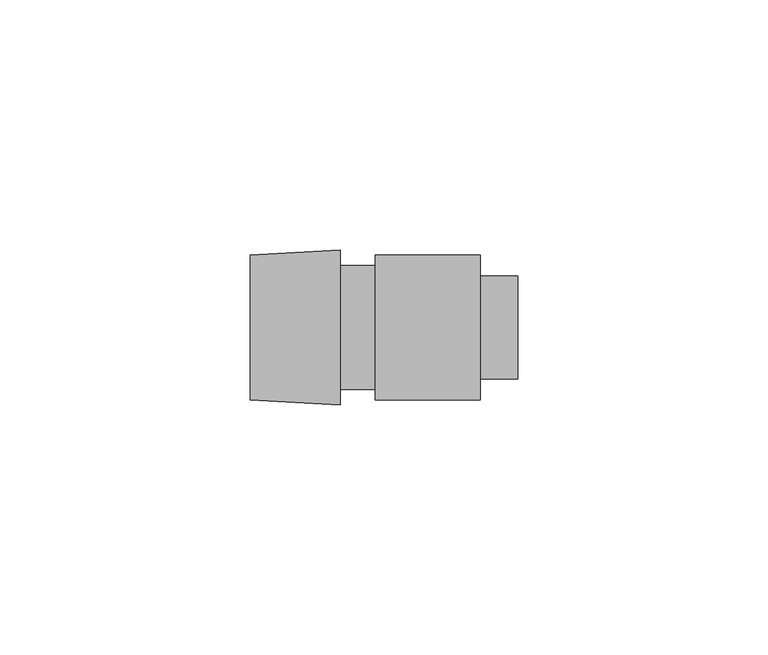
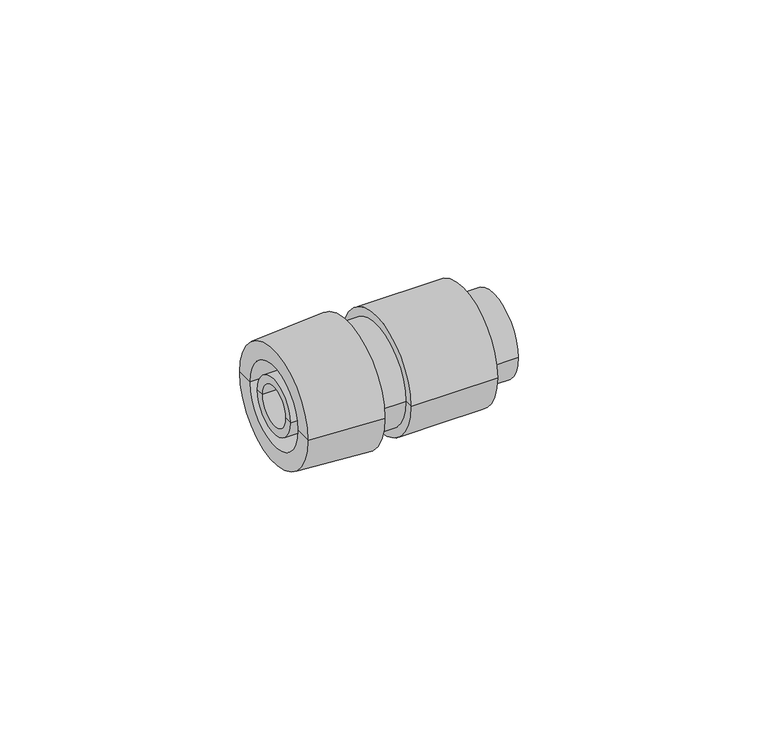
"""IFC4 building model written with IfcOpenShell, lengths in millimetres: cable carrier fitting geometry, КНС_ПереходникАрмированнаяТрубаКоробка_IP65_DKC : Коробка."""

from ifc_helpers import new_model, si_unit, frame, origin, place, context, project, spatial, polyline, circle_curve, source, transform, mapped, element, save
from ifc_brep_helpers import plane_surface, cylinder_surface, revolved_surface, advanced_brep


def cable_carrier_fitting_572a19a3(model_context):
    return source(origin(), model_context, "Body", "AdvancedBrep", [
        advanced_brep(
        [(35.5, -8.1853846, 0.0), (35.5, 8.1853846, 0.0), (0.0, 8.1853846, 0.0), (0.0, -8.1853846, 0.0), (35.5, -10.25, 0.0), (35.5, 10.25, 0.0), (28.0, -10.25, 0.0), (28.0, 10.25, 0.0), (28.0, -14.5, 0.0), (28.0, 14.5, 0.0), (7.0, -14.5, 0.0), (7.0, 14.5, 0.0), (7.0, -12.375, 0.0), (7.0, 12.375, 0.0), (0.0, -12.375, 0.0), (0.0, 12.375, 0.0)],
        [
            (0, 1, circle_curve(frame((35.5, 0.0, 0.0), z_axis=(1.0, 0.0, 0.0), x_axis=(0.0, 1.0, 0.0)), 8.1853846)),
            (1, 2),
            (2, 3, circle_curve(frame((0.0, 0.0, 0.0), z_axis=(-1.0, 0.0, 0.0), x_axis=(0.0, 1.0, 0.0)), 8.1853846)),
            (3, 0),
            (1, 0, circle_curve(frame((35.5, 0.0, 0.0), z_axis=(1.0, 0.0, 0.0), x_axis=(0.0, 1.0, 0.0)), 8.1853846)),
            (3, 2, circle_curve(frame((0.0, 0.0, 0.0), z_axis=(-1.0, 0.0, 0.0), x_axis=(0.0, 1.0, 0.0)), 8.1853846)),
            (4, 5, circle_curve(frame((35.5, 0.0, 0.0), z_axis=(1.0, 0.0, 0.0), x_axis=(0.0, 1.0, 0.0)), 10.25)),
            (5, 1),
            (0, 4),
            (5, 4, circle_curve(frame((35.5, 0.0, 0.0), z_axis=(1.0, 0.0, 0.0), x_axis=(0.0, 1.0, 0.0)), 10.25)),
            (6, 7, circle_curve(frame((28.0, 0.0, 0.0), z_axis=(1.0, 0.0, 0.0), x_axis=(0.0, 1.0, 0.0)), 10.25)),
            (7, 5),
            (4, 6),
            (7, 6, circle_curve(frame((28.0, 0.0, 0.0), z_axis=(1.0, 0.0, 0.0), x_axis=(0.0, 1.0, 0.0)), 10.25)),
            (8, 9, circle_curve(frame((28.0, 0.0, 0.0), z_axis=(1.0, 0.0, 0.0), x_axis=(0.0, 1.0, 0.0)), 14.5)),
            (9, 7),
            (6, 8),
            (9, 8, circle_curve(frame((28.0, 0.0, 0.0), z_axis=(1.0, 0.0, 0.0), x_axis=(0.0, 1.0, 0.0)), 14.5)),
            (10, 11, circle_curve(frame((7.0, 0.0, 0.0), z_axis=(1.0, 0.0, 0.0), x_axis=(0.0, 1.0, 0.0)), 14.5)),
            (11, 9),
            (8, 10),
            (11, 10, circle_curve(frame((7.0, 0.0, 0.0), z_axis=(1.0, 0.0, 0.0), x_axis=(0.0, 1.0, 0.0)), 14.5)),
            (12, 13, circle_curve(frame((7.0, 0.0, 0.0), z_axis=(1.0, 0.0, 0.0), x_axis=(0.0, 1.0, 0.0)), 12.375)),
            (13, 11),
            (10, 12),
            (13, 12, circle_curve(frame((7.0, 0.0, 0.0), z_axis=(1.0, 0.0, 0.0), x_axis=(0.0, 1.0, 0.0)), 12.375)),
            (14, 15, circle_curve(frame((0.0, 0.0, 0.0), z_axis=(1.0, 0.0, 0.0), x_axis=(0.0, 1.0, 0.0)), 12.375)),
            (15, 13),
            (12, 14),
            (15, 14, circle_curve(frame((0.0, 0.0, 0.0), z_axis=(1.0, 0.0, 0.0), x_axis=(0.0, 1.0, 0.0)), 12.375)),
            (2, 15),
            (14, 3),
        ],
        [
            revolved_surface(polyline([(0.0, 8.1853846, 0.0), (35.5, 8.1853846, 0.0)]), (1524.0, 0.0, 0.0), (-1.0, 0.0, 0.0)),
            plane_surface(frame((35.5, 0.0, 0.0), z_axis=(1.0, 0.0, 0.0), x_axis=(0.0, 1.0, 0.0))),
            cylinder_surface(frame((1524.0, 0.0, 0.0), z_axis=(-1.0, 0.0, 0.0), x_axis=(0.0, 1.0, 0.0)), 10.25),
            plane_surface(frame((28.0, 0.0, 0.0), z_axis=(1.0, 0.0, 0.0), x_axis=(0.0, 1.0, 0.0))),
            cylinder_surface(frame((1524.0, 0.0, 0.0), z_axis=(-1.0, 0.0, 0.0), x_axis=(0.0, 1.0, 0.0)), 14.5),
            plane_surface(frame((7.0, 0.0, 0.0), z_axis=(-1.0, 0.0, 0.0), x_axis=(0.0, 1.0, 0.0))),
            cylinder_surface(frame((1524.0, 0.0, 0.0), z_axis=(-1.0, 0.0, 0.0), x_axis=(0.0, 1.0, 0.0)), 12.375),
            plane_surface(frame((0.0, 0.0, 0.0), z_axis=(-1.0, 0.0, 0.0), x_axis=(0.0, 1.0, 0.0))),
        ],
        [
            (0, [[1, 2, 3, 4]]),
            (0, [[5, -4, 6, -2]]),
            (1, [[7, 8, -1, 9]]),
            (1, [[10, -9, -5, -8]]),
            (2, [[11, 12, -7, 13]]),
            (2, [[14, -13, -10, -12]]),
            (3, [[15, 16, -11, 17]]),
            (3, [[18, -17, -14, -16]]),
            (4, [[19, 20, -15, 21]]),
            (4, [[22, -21, -18, -20]]),
            (5, [[23, 24, -19, 25]]),
            (5, [[26, -25, -22, -24]]),
            (6, [[27, 28, -23, 29]]),
            (6, [[30, -29, -26, -28]]),
            (7, [[-3, 31, -27, 32]]),
            (7, [[-6, -32, -30, -31]]),
        ],
    ),
        advanced_brep(
        [(0.0, -15.5, 0.0), (0.0, 15.5, 0.0), (0.0, 10.25, 0.0), (0.0, -10.25, 0.0), (-18.0, -14.5, 0.0), (-18.0, 14.5, 0.0), (-18.0, -10.25, 0.0), (-18.0, 10.25, 0.0)],
        [
            (0, 1, circle_curve(frame((0.0, 0.0, 0.0), z_axis=(1.0, 0.0, 0.0), x_axis=(0.0, 1.0, 0.0)), 15.5)),
            (1, 2),
            (2, 3, circle_curve(frame((0.0, 0.0, 0.0), z_axis=(-1.0, 0.0, 0.0), x_axis=(0.0, 1.0, 0.0)), 10.25)),
            (3, 0),
            (1, 0, circle_curve(frame((0.0, 0.0, 0.0), z_axis=(1.0, 0.0, 0.0), x_axis=(0.0, 1.0, 0.0)), 15.5)),
            (3, 2, circle_curve(frame((0.0, 0.0, 0.0), z_axis=(-1.0, 0.0, 0.0), x_axis=(0.0, 1.0, 0.0)), 10.25)),
            (4, 5, circle_curve(frame((-18.0, 0.0, 0.0), z_axis=(1.0, 0.0, 0.0), x_axis=(0.0, 1.0, 0.0)), 14.5)),
            (5, 1),
            (0, 4),
            (5, 4, circle_curve(frame((-18.0, 0.0, 0.0), z_axis=(1.0, 0.0, 0.0), x_axis=(0.0, 1.0, 0.0)), 14.5)),
            (6, 7, circle_curve(frame((-18.0, 0.0, 0.0), z_axis=(1.0, 0.0, 0.0), x_axis=(0.0, 1.0, 0.0)), 10.25)),
            (7, 5),
            (4, 6),
            (7, 6, circle_curve(frame((-18.0, 0.0, 0.0), z_axis=(1.0, 0.0, 0.0), x_axis=(0.0, 1.0, 0.0)), 10.25)),
            (2, 7),
            (6, 3),
        ],
        [
            plane_surface(frame((0.0, 0.0, 0.0), z_axis=(1.0, 0.0, 0.0), x_axis=(0.0, 1.0, 0.0))),
            revolved_surface(polyline([(0.0, 15.5, 0.0), (-18.0, 14.5, 0.0)]), (1524.0, 0.0, 0.0), (-1.0, 0.0, 0.0)),
            plane_surface(frame((-18.0, 0.0, 0.0), z_axis=(-1.0, 0.0, 0.0), x_axis=(0.0, 1.0, 0.0))),
            revolved_surface(polyline([(-18.0, 10.25, 0.0), (0.0, 10.25, 0.0)]), (1524.0, 0.0, 0.0), (-1.0, 0.0, 0.0)),
        ],
        [
            (0, [[1, 2, 3, 4]]),
            (0, [[5, -4, 6, -2]]),
            (1, [[7, 8, -1, 9]]),
            (1, [[10, -9, -5, -8]]),
            (2, [[11, 12, -7, 13]]),
            (2, [[14, -13, -10, -12]]),
            (3, [[-3, 15, -11, 16]]),
            (3, [[-6, -16, -14, -15]]),
        ],
    ),
        advanced_brep(
        [(-18.0, -7.0, 0.0), (-18.0, 7.0, 0.0), (0.0, 7.0, 0.0), (0.0, -7.0, 0.0), (-18.0, -5.0, 0.0), (-18.0, 5.0, 0.0), (0.0, -5.0, 0.0), (0.0, 5.0, 0.0)],
        [
            (0, 1, circle_curve(frame((-18.0, 0.0, 0.0), z_axis=(1.0, 0.0, 0.0), x_axis=(0.0, 1.0, 0.0)), 7.0)),
            (1, 2),
            (2, 3, circle_curve(frame((0.0, 0.0, 0.0), z_axis=(-1.0, 0.0, 0.0), x_axis=(0.0, 1.0, 0.0)), 7.0)),
            (3, 0),
            (1, 0, circle_curve(frame((-18.0, 0.0, 0.0), z_axis=(1.0, 0.0, 0.0), x_axis=(0.0, 1.0, 0.0)), 7.0)),
            (3, 2, circle_curve(frame((0.0, 0.0, 0.0), z_axis=(-1.0, 0.0, 0.0), x_axis=(0.0, 1.0, 0.0)), 7.0)),
            (4, 5, circle_curve(frame((-18.0, 0.0, 0.0), z_axis=(1.0, 0.0, 0.0), x_axis=(0.0, 1.0, 0.0)), 5.0)),
            (5, 1),
            (0, 4),
            (5, 4, circle_curve(frame((-18.0, 0.0, 0.0), z_axis=(1.0, 0.0, 0.0), x_axis=(0.0, 1.0, 0.0)), 5.0)),
            (6, 7, circle_curve(frame((0.0, 0.0, 0.0), z_axis=(1.0, 0.0, 0.0), x_axis=(0.0, 1.0, 0.0)), 5.0)),
            (7, 5),
            (4, 6),
            (7, 6, circle_curve(frame((0.0, 0.0, 0.0), z_axis=(1.0, 0.0, 0.0), x_axis=(0.0, 1.0, 0.0)), 5.0)),
            (2, 7),
            (6, 3),
        ],
        [
            cylinder_surface(frame((1524.0, 0.0, 0.0), z_axis=(-1.0, 0.0, 0.0), x_axis=(0.0, 1.0, 0.0)), 7.0),
            plane_surface(frame((-18.0, 0.0, 0.0), z_axis=(-1.0, 0.0, 0.0), x_axis=(0.0, 1.0, 0.0))),
            revolved_surface(polyline([(-18.0, 5.0, 0.0), (0.0, 5.0, 0.0)]), (1524.0, 0.0, 0.0), (-1.0, 0.0, 0.0)),
            plane_surface(frame((0.0, 0.0, 0.0), z_axis=(1.0, 0.0, 0.0), x_axis=(0.0, 1.0, 0.0))),
        ],
        [
            (0, [[1, 2, 3, 4]]),
            (0, [[5, -4, 6, -2]]),
            (1, [[7, 8, -1, 9]]),
            (1, [[10, -9, -5, -8]]),
            (2, [[11, 12, -7, 13]]),
            (2, [[14, -13, -10, -12]]),
            (3, [[-3, 15, -11, 16]]),
            (3, [[-6, -16, -14, -15]]),
        ],
    ),
    ])


if __name__ == "__main__":
    model = new_model("IFC4")
    model_context = context("Model", 3, world=origin())
    ifc_project = project(units=[si_unit("LENGTHUNIT", "METRE", prefix="MILLI")], contexts=[model_context])
    site = spatial("IfcSite", under=ifc_project)
    building = spatial("IfcBuilding", under=site)
    placement = place(None, origin())
    cable_carrier_fitting_shape = cable_carrier_fitting_572a19a3(model_context)
    element("IfcCableCarrierFitting", 1, ObjectType="КНС_ПереходникАрмированнаяТрубаКоробка_IP65_DKC : Коробка", at=placement, inside=building, context=model_context, shape_type="MappedRepresentation", body=[
        mapped(cable_carrier_fitting_shape, transform((0.0, 0.0, 0.0), x_axis=(1.0, 0.0, 0.0), y_axis=(0.0, 1.0, 0.0), z_axis=(0.0, 0.0, 1.0))),
    ])
    save(model, "model.ifc")
